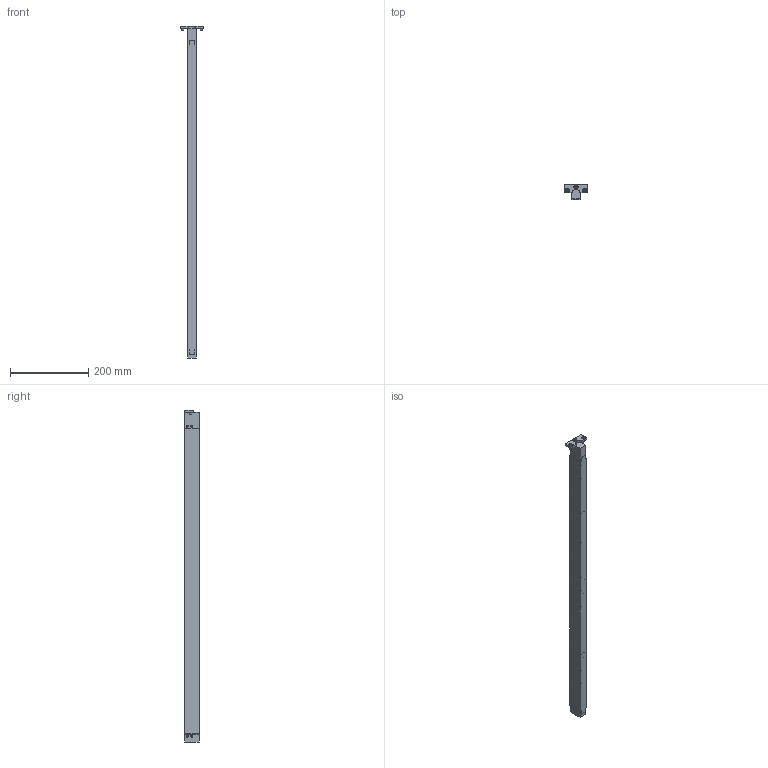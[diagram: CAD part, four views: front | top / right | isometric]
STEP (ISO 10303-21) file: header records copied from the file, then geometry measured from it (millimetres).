
FILE_DESCRIPTION(/* description */ (''),/* implementation_level */ '2;1');
FILE_NAME(/* name */ 'S:\EASCN Vault\Designs\Standard Part\DIE LIFTERS\EHB\EHB- 3D step\EHB22 - 3D step complete serie\EHB 22-20.stp',/* time_stamp */ '2019-11-21T14:42:20+08:00',/* author */ ('yue.yang'),/* organization */ (''),/* preprocessor_version */ 'ST-DEVELOPER v17',/* originating_system */ 'Autodesk Inventor 2019',/* authorisation */ '');
FILE_SCHEMA (('AUTOMOTIVE_DESIGN { 1 0 10303 214 3 1 1 }'));
Length unit declared in the file: millimetre
Products named in the file (1): EHB 22-20_Shrinkwrap_1
Bounding box: 58 x 37.8 x 846 mm (x, y, z)
Volume: 545123.1 mm3; surface area: 214546.4 mm2
Topology: 72 solids, 72 shells, 701 faces, 1927 edges, 1391 vertices
Faces by surface type: plane 252, cylinder 220, cone 109, torus 100, sphere 20
Full cylindrical faces by diameter (mm): 3 x2, 4.134 x1, 5 x15, 5.5 x4, 6 x21, 6.647 x1, 8 x1, 10 x6, 12.2 x20, 16 x20, 16.4 x20, 17.05 x20, 19.05 x20, 19.2 x20
Entity records: 26172 total; most frequent: CARTESIAN_POINT 6475, DIRECTION 4277, ORIENTED_EDGE 3724, AXIS2_PLACEMENT_3D 1885, EDGE_CURVE 1862, VERTEX_POINT 1391, CIRCLE 1181, EDGE_LOOP 901
